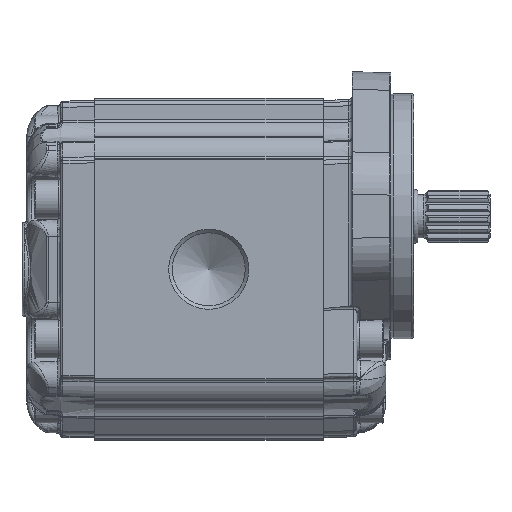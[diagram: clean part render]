
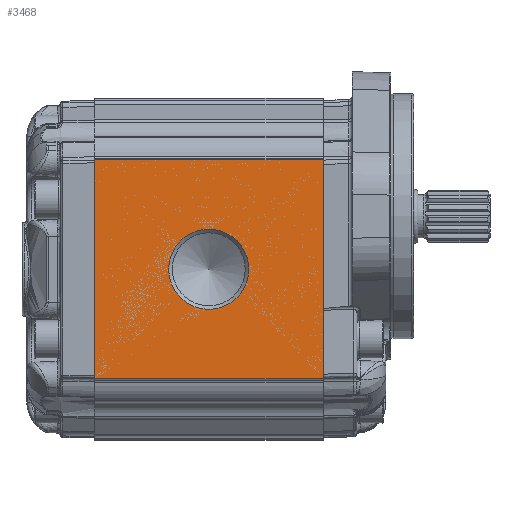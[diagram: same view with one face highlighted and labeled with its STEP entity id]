
A CAD part, left-side view. The second image highlights one B-rep face of the part: STEP entity #3468.
In plain terms, the highlighted planar face has unit normal (-1, 0, 0) as drawn and (1, 0, 0) by its records, which use the part's own axes.
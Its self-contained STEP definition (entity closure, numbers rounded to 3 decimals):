
#3468 = ADVANCED_FACE( '', ( #9782, #9783 ), #9784, .T. );
#9782 = FACE_BOUND( '', #22544, .T. );
#9783 = FACE_OUTER_BOUND( '', #22545, .T. );
#9784 = PLANE( '', #22546 );
#22544 = EDGE_LOOP( '', ( #81247 ) );
#22545 = EDGE_LOOP( '', ( #81248, #81249, #81250, #81251 ) );
#22546 = AXIS2_PLACEMENT_3D( '', #81252, #81253, #81254 );
#81247 = ORIENTED_EDGE( '', *, *, #105256, .T. );
#81248 = ORIENTED_EDGE( '', *, *, #105491, .F. );
#81249 = ORIENTED_EDGE( '', *, *, #105492, .T. );
#81250 = ORIENTED_EDGE( '', *, *, #105493, .F. );
#81251 = ORIENTED_EDGE( '', *, *, #105494, .T. );
#81252 = CARTESIAN_POINT( '', ( 57.5, -136.868, 91.388 ) );
#81253 = DIRECTION( '', ( 1., 0., 0. ) );
#81254 = DIRECTION( '', ( 0., 0., 1. ) );
#105256 = EDGE_CURVE( '', #116646, #116646, #116647, .F. );
#105491 = EDGE_CURVE( '', #117054, #117055, #117056, .T. );
#105492 = EDGE_CURVE( '', #117054, #117057, #117058, .F. );
#105493 = EDGE_CURVE( '', #117059, #117057, #117060, .T. );
#105494 = EDGE_CURVE( '', #117059, #117055, #117061, .F. );
#116646 = VERTEX_POINT( '', #134945 );
#116647 = CIRCLE( '', #134946, 16.646 );
#117054 = VERTEX_POINT( '', #136121 );
#117055 = VERTEX_POINT( '', #136122 );
#117056 = LINE( '', #136123, #136124 );
#117057 = VERTEX_POINT( '', #136125 );
#117058 = LINE( '', #136126, #136127 );
#117059 = VERTEX_POINT( '', #136128 );
#117060 = LINE( '', #136129, #136130 );
#117061 = LINE( '', #136131, #136132 );
#134945 = CARTESIAN_POINT( '', ( 57.5, 47.5, 16.646 ) );
#134946 = AXIS2_PLACEMENT_3D( '', #176931, #176932, #176933 );
#136121 = CARTESIAN_POINT( '', ( 57.5, 95., 45.5 ) );
#136122 = CARTESIAN_POINT( '', ( 57.5, 95., -45.5 ) );
#136123 = CARTESIAN_POINT( '', ( 57.5, 95., 91.388 ) );
#136124 = VECTOR( '', #177013, 1000. );
#136125 = CARTESIAN_POINT( '', ( 57.5, 0., 45.5 ) );
#136126 = CARTESIAN_POINT( '', ( 57.5, -136.868, 45.5 ) );
#136127 = VECTOR( '', #177014, 1000. );
#136128 = CARTESIAN_POINT( '', ( 57.5, 0., -45.5 ) );
#136129 = CARTESIAN_POINT( '', ( 57.5, 0., -44.978 ) );
#136130 = VECTOR( '', #177015, 1000. );
#136131 = CARTESIAN_POINT( '', ( 57.5, -136.868, -45.5 ) );
#136132 = VECTOR( '', #177016, 1000. );
#176931 = CARTESIAN_POINT( '', ( 57.5, 47.5, 0. ) );
#176932 = DIRECTION( '', ( 1., 0., 0. ) );
#176933 = DIRECTION( '', ( 0., 0., 1. ) );
#177013 = DIRECTION( '', ( 0., 0., -1. ) );
#177014 = DIRECTION( '', ( 0., 1., 0. ) );
#177015 = DIRECTION( '', ( 0., 0., 1. ) );
#177016 = DIRECTION( '', ( 0., -1., 0. ) );
